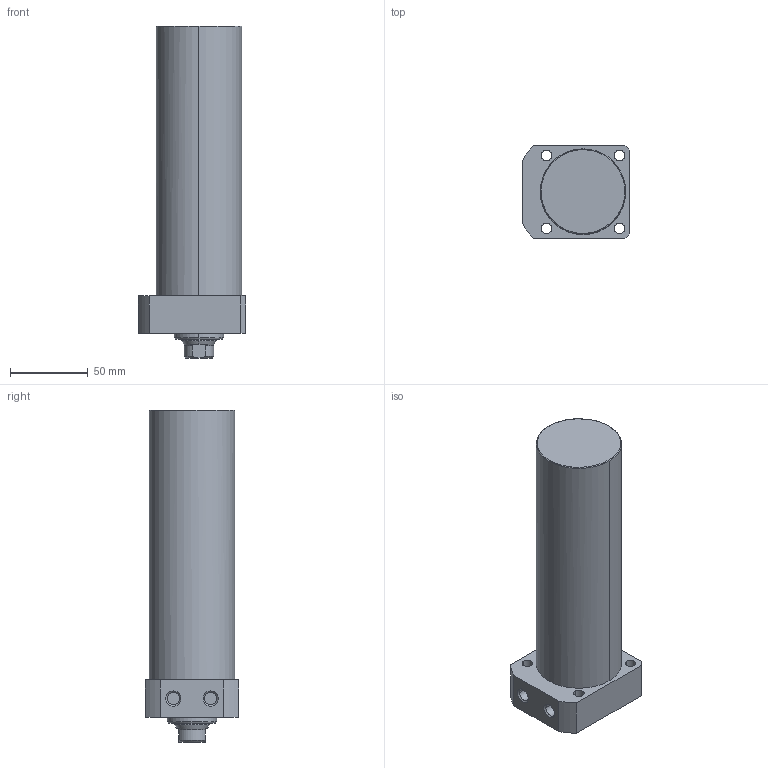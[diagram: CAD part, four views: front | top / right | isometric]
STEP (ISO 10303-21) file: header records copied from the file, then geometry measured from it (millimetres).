
FILE_DESCRIPTION((' '),'2;1');
FILE_NAME( 'TLLR-055CA-145.STEP.stp', '2025-10-24T16:34:44', (' '), ('--- Datakit www.datakit.com---'), ' Datakit CrossCadWare V2024.1 Dec 21 2023', 'Mastercam 2025', ' ');
FILE_SCHEMA(('AUTOMOTIVE_DESIGN { 1 0 10303 214 1 1 1 1 }'));
Length unit declared in the file: millimetre
Products named in the file (1): TLLR-055CA-145
Bounding box: 69 x 60 x 214 mm (x, y, z)
Volume: 511021.8 mm3; surface area: 48352 mm2
Topology: 1 solids, 1 shells, 63 faces, 177 edges, 122 vertices
Faces by surface type: cylinder 28, plane 19, cone 14, torus 2
Entity records: 2164 total; most frequent: CARTESIAN_POINT 401, DIRECTION 400, ORIENTED_EDGE 350, EDGE_CURVE 175, AXIS2_PLACEMENT_3D 169, VERTEX_POINT 122, CIRCLE 105, EDGE_LOOP 79
